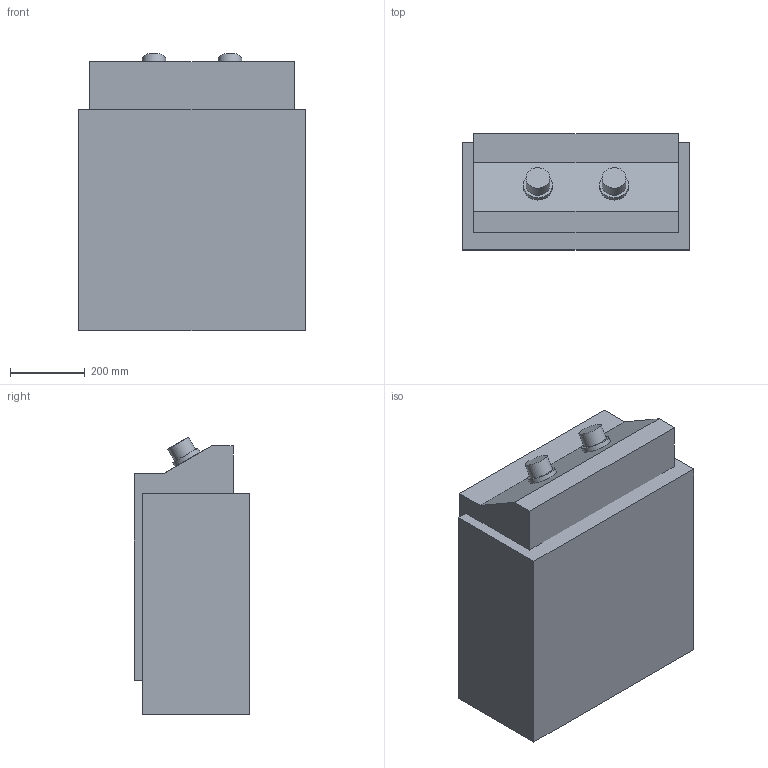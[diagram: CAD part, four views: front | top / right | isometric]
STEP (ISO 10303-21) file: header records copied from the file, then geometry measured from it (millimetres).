
FILE_DESCRIPTION (( 'STEP AP203' ), '1' );
FILE_NAME ('BIB18IR_WITH_LINER.STEP', '2020-04-24T15:50:55', ( '8DNKR52' ), ( 'Microsoft' ), 'SwSTEP 2.0', 'SolidWorks 2019', '' );
FILE_SCHEMA (( 'CONFIG_CONTROL_DESIGN' ));
Length unit declared in the file: inch
Products named in the file (1): BIB18IR_WITH_LINER
Bounding box: 603.25 x 308.97 x 740.82 mm (x, y, z)
Surface area: 2662993.2 mm2
Topology: 2 solids, 2 shells, 28 faces, 61 edges, 41 vertices
Faces by surface type: plane 24, cylinder 4
Full cylindrical faces by diameter (mm): 63.5 x2, 77.788 x2
Entity records: 809 total; most frequent: CARTESIAN_POINT 125, DIRECTION 122, ORIENTED_EDGE 112, EDGE_CURVE 56, LINE 48, VECTOR 48, VERTEX_POINT 40, AXIS2_PLACEMENT_3D 37
